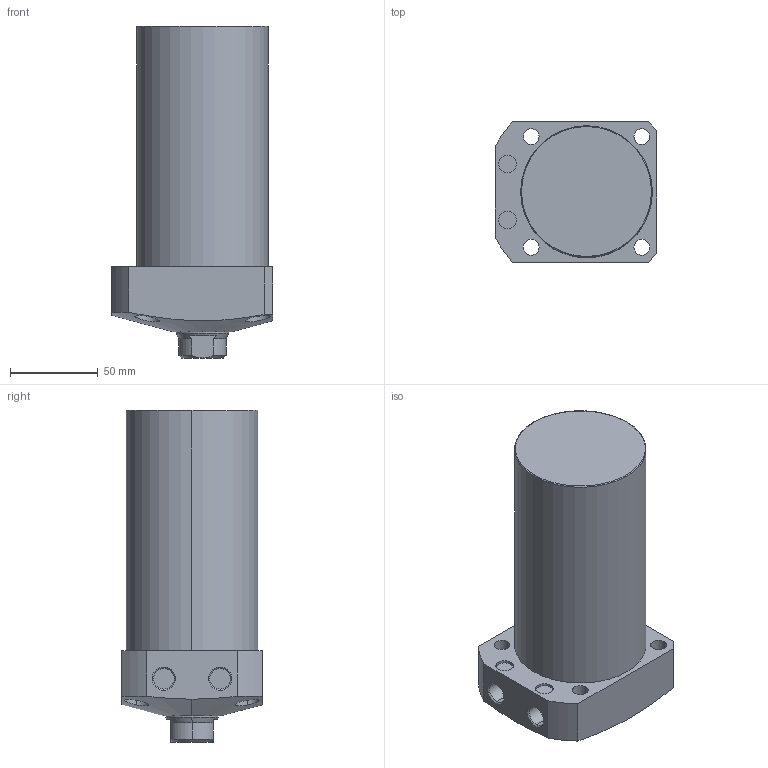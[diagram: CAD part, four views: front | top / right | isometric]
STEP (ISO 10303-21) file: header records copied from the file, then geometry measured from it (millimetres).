
FILE_DESCRIPTION (( 'STEP AP203' ), '1' );
FILE_NAME ('CLL-075CA-100.STEP', '2019-12-23T08:36:51', ( '' ), ( '' ), 'SwSTEP 2.0', 'SolidWorks 2015', '' );
FILE_SCHEMA (( 'CONFIG_CONTROL_DESIGN' ));
Length unit declared in the file: millimetre
Products named in the file (1): CLL-075CA-100
Bounding box: 92 x 80 x 189 mm (x, y, z)
Volume: 824305.4 mm3; surface area: 64614.2 mm2
Topology: 1 solids, 1 shells, 74 faces, 171 edges, 108 vertices
Faces by surface type: cylinder 35, plane 22, cone 15, torus 2
Entity records: 2610 total; most frequent: CARTESIAN_POINT 815, DIRECTION 376, ORIENTED_EDGE 338, EDGE_CURVE 169, AXIS2_PLACEMENT_3D 156, VERTEX_POINT 108, EDGE_LOOP 93, CIRCLE 81
